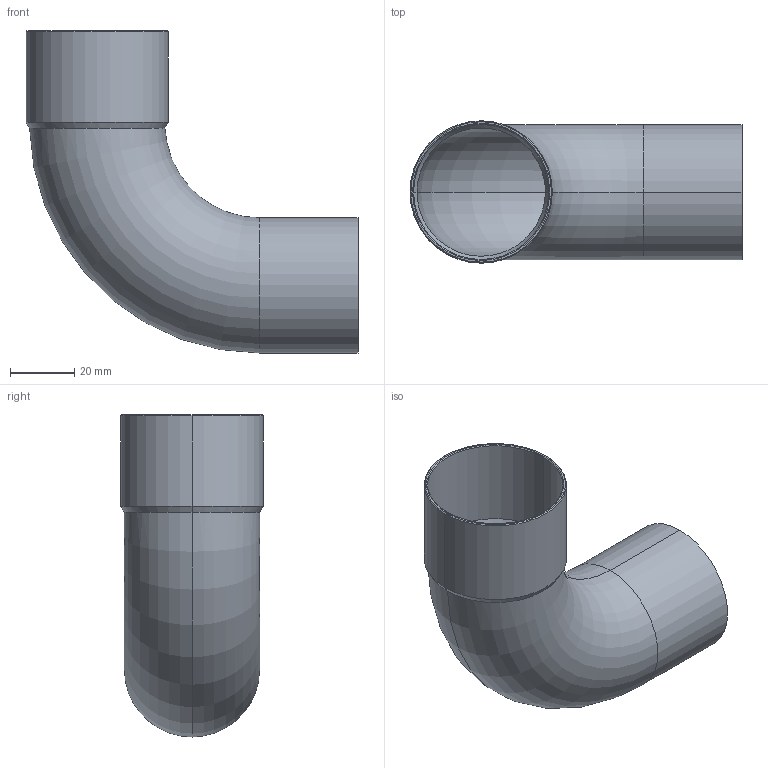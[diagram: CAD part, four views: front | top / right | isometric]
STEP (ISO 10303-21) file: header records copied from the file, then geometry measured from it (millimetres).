
FILE_DESCRIPTION((''),'2;1');
FILE_NAME('P:\Bouwmaten\z-maattekeningen 3D\5000\5001a\15001a42.stp','2005-10-04T14:51:55',('Kris'),(''),'Autodesk Inventor 8','Autodesk Inventor 8','');
FILE_SCHEMA(('AUTOMOTIVE_DESIGN { 1 0 10303 214 1 1 1 1 }'));
Length unit declared in the file: millimetre
Products named in the file (1): 15001a42
Bounding box: 103.1 x 44.2 x 100 mm (x, y, z)
Volume: 19808.6 mm3; surface area: 36280.5 mm2
Topology: 1 solids, 1 shells, 22 faces, 46 edges, 26 vertices
Faces by surface type: cone 8, cylinder 8, torus 4, plane 2
Entity records: 681 total; most frequent: CARTESIAN_POINT 173, DIRECTION 114, ORIENTED_EDGE 92, AXIS2_PLACEMENT_3D 49, EDGE_CURVE 46, VERTEX_POINT 26, CIRCLE 26, EDGE_LOOP 24
